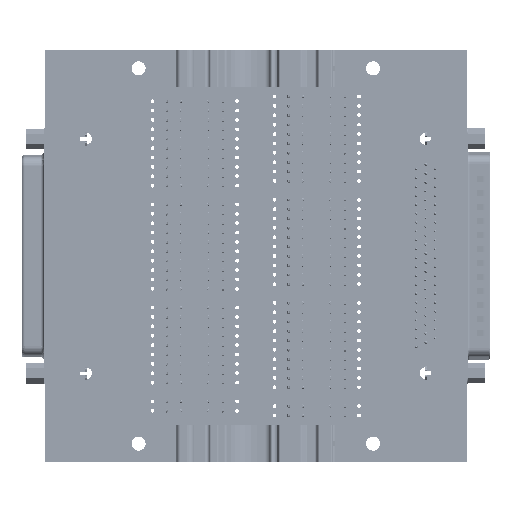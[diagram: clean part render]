
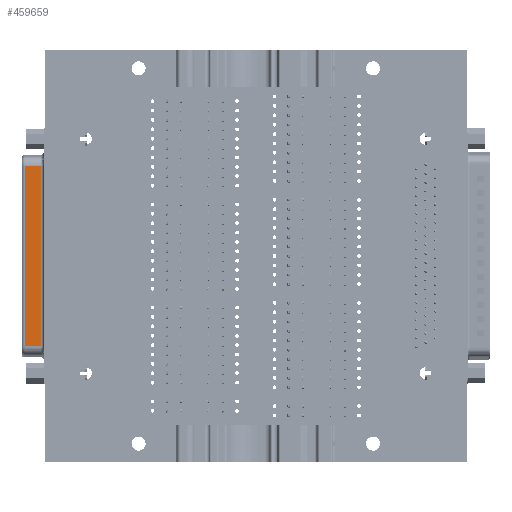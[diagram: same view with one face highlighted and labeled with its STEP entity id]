
A CAD part, front view. The second image highlights one B-rep face of the part: STEP entity #459659.
In plain terms, the highlighted planar face has unit normal (0, -1, 0).
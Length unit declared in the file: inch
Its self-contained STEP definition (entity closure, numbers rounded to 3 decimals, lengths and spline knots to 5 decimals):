
#38024 = AXIS2_PLACEMENT_3D ( 'NONE', #506247, #172212, #166437 ) ;
#118851 = CARTESIAN_POINT ( 'NONE',  ( -0.95916, -0.15551, -0.0325 ) ) ;
#132379 = LINE ( 'NONE', #118851, #698730 ) ;
#135497 = CARTESIAN_POINT ( 'NONE',  ( 0.95916, -0.15551, -0.0325 ) ) ;
#162524 = CARTESIAN_POINT ( 'NONE',  ( -0.96366, -0.15551, -0.20028 ) ) ;
#166437 = DIRECTION ( 'NONE',  ( 0., 0., -1. ) ) ;
#172212 = DIRECTION ( 'NONE',  ( 0., -1., 0. ) ) ;
#196525 = CARTESIAN_POINT ( 'NONE',  ( -0.95916, -0.15551, -0.0325 ) ) ;
#212611 = LINE ( 'NONE', #162524, #495936 ) ;
#303024 = ORIENTED_EDGE ( 'NONE', *, *, #331607, .T. ) ;
#309725 = CARTESIAN_POINT ( 'NONE',  ( 0.95916, -0.15551, -0.20028 ) ) ;
#331607 = EDGE_CURVE ( 'NONE', #811361, #510828, #132379, .T. ) ;
#346103 = VECTOR ( 'NONE', #416276, 39.37008 ) ;
#349665 = ORIENTED_EDGE ( 'NONE', *, *, #567408, .T. ) ;
#409080 = LINE ( 'NONE', #814485, #346103 ) ;
#416276 = DIRECTION ( 'NONE',  ( 0., 0., 1. ) ) ;
#459659 = ADVANCED_FACE ( 'NONE', ( #616266 ), #638142, .T. ) ;
#470050 = DIRECTION ( 'NONE',  ( -1., 0., 0. ) ) ;
#495936 = VECTOR ( 'NONE', #628442, 39.37008 ) ;
#506247 = CARTESIAN_POINT ( 'NONE',  ( -0.95916, -0.15551, 0. ) ) ;
#510828 = VERTEX_POINT ( 'NONE', #196525 ) ;
#528182 = VERTEX_POINT ( 'NONE', #692110 ) ;
#562421 = ORIENTED_EDGE ( 'NONE', *, *, #780367, .F. ) ;
#567408 = EDGE_CURVE ( 'NONE', #528182, #644330, #212611, .T. ) ;
#615652 = LINE ( 'NONE', #823274, #667647 ) ;
#616266 = FACE_OUTER_BOUND ( 'NONE', #707957, .T. ) ;
#628442 = DIRECTION ( 'NONE',  ( 1., 0., 0. ) ) ;
#638142 = PLANE ( 'NONE',  #38024 ) ;
#644330 = VERTEX_POINT ( 'NONE', #309725 ) ;
#667647 = VECTOR ( 'NONE', #682931, 39.37008 ) ;
#682931 = DIRECTION ( 'NONE',  ( 0., 0., 1. ) ) ;
#692110 = CARTESIAN_POINT ( 'NONE',  ( -0.95916, -0.15551, -0.20028 ) ) ;
#698730 = VECTOR ( 'NONE', #470050, 39.37008 ) ;
#707957 = EDGE_LOOP ( 'NONE', ( #756069, #303024, #562421, #349665 ) ) ;
#756069 = ORIENTED_EDGE ( 'NONE', *, *, #831286, .T. ) ;
#780367 = EDGE_CURVE ( 'NONE', #528182, #510828, #615652, .T. ) ;
#811361 = VERTEX_POINT ( 'NONE', #135497 ) ;
#814485 = CARTESIAN_POINT ( 'NONE',  ( 0.95916, -0.15551, 0. ) ) ;
#823274 = CARTESIAN_POINT ( 'NONE',  ( -0.95916, -0.15551, 0. ) ) ;
#831286 = EDGE_CURVE ( 'NONE', #644330, #811361, #409080, .T. ) ;
